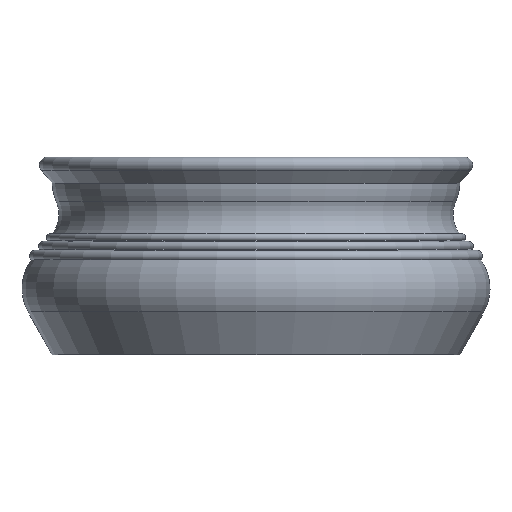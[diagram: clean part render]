
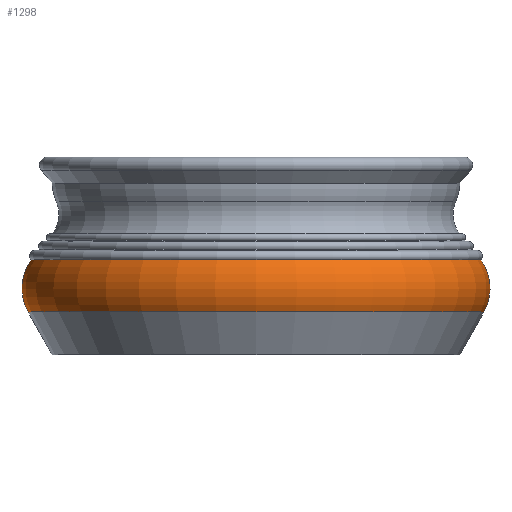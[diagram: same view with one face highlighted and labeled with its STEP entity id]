
A CAD part, front view. The second image highlights one B-rep face of the part: STEP entity #1298.
In plain terms, the highlighted toroidal (fillet/blend) face has major radius 117.45 mm and minor radius 30.55 mm.
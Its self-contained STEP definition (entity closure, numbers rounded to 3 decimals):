
#22=TOROIDAL_SURFACE('',#1475,117.45,30.55);
#164=FACE_OUTER_BOUND('',#280,.T.);
#280=EDGE_LOOP('',(#1187,#1188,#1189,#1190));
#517=CIRCLE('',#1439,144.128);
#539=CIRCLE('',#1476,142.152);
#540=CIRCLE('',#1477,30.55);
#642=VERTEX_POINT('',#2198);
#657=VERTEX_POINT('',#2257);
#805=EDGE_CURVE('',#642,#642,#517,.T.);
#834=EDGE_CURVE('',#657,#657,#539,.T.);
#835=EDGE_CURVE('',#657,#642,#540,.T.);
#1187=ORIENTED_EDGE('',*,*,#834,.F.);
#1188=ORIENTED_EDGE('',*,*,#835,.T.);
#1189=ORIENTED_EDGE('',*,*,#805,.T.);
#1190=ORIENTED_EDGE('',*,*,#835,.F.);
#1298=ADVANCED_FACE('',(#164),#22,.T.);
#1439=AXIS2_PLACEMENT_3D('',#2199,#1805,#1806);
#1475=AXIS2_PLACEMENT_3D('',#2256,#1884,#1885);
#1476=AXIS2_PLACEMENT_3D('',#2258,#1886,#1887);
#1477=AXIS2_PLACEMENT_3D('',#2259,#1888,#1889);
#1805=DIRECTION('center_axis',(0.,0.,1.));
#1806=DIRECTION('ref_axis',(1.,0.,0.));
#1884=DIRECTION('center_axis',(0.,0.,1.));
#1885=DIRECTION('ref_axis',(1.,0.,0.));
#1886=DIRECTION('center_axis',(0.,0.,1.));
#1887=DIRECTION('ref_axis',(1.,0.,0.));
#1888=DIRECTION('center_axis',(0.,-1.,0.));
#1889=DIRECTION('ref_axis',(-1.,0.,0.));
#2198=CARTESIAN_POINT('',(-144.128,0.,27.115));
#2199=CARTESIAN_POINT('Origin',(0.,0.,27.115));
#2256=CARTESIAN_POINT('Origin',(0.,0.,42.));
#2257=CARTESIAN_POINT('',(-142.152,0.,59.976));
#2258=CARTESIAN_POINT('Origin',(0.,0.,59.976));
#2259=CARTESIAN_POINT('Origin',(-117.45,0.,
42.));
